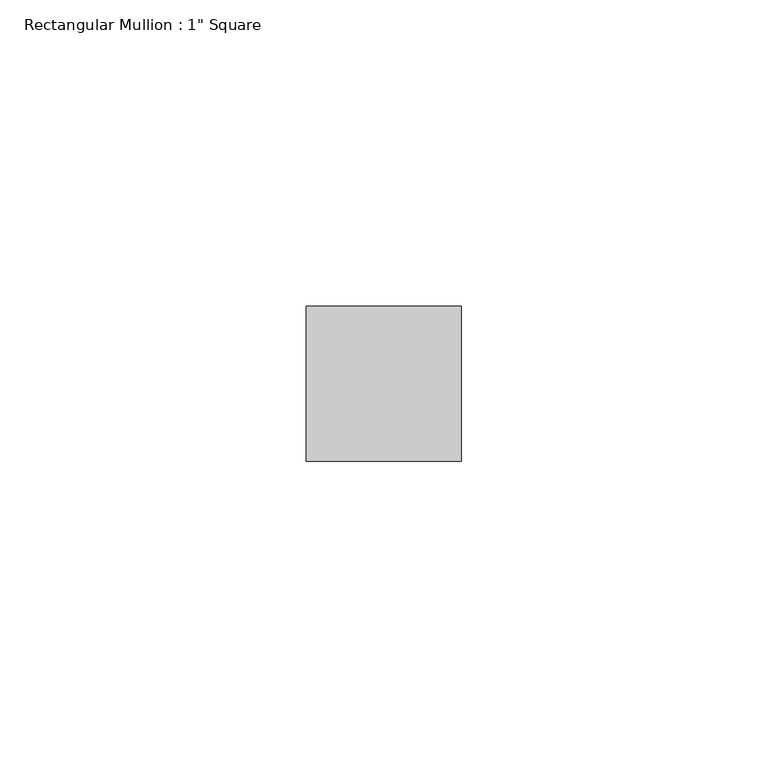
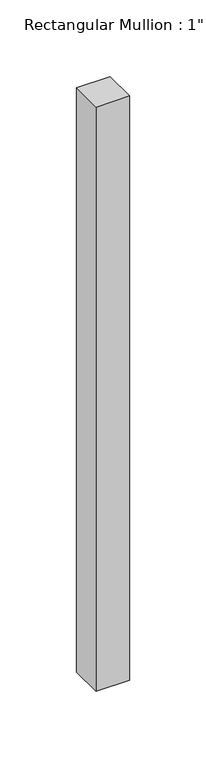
"""IFC4 building model written with IfcOpenShell, lengths in millimetres: member geometry."""

import ifcopenshell
import ifcopenshell.guid

model = None  # the IFC model being written
_history = None  # IfcOwnerHistory: only IFC2X3 demands one
_inside = {}  # id of a spatial element -> (the spatial element, [elements in it])
_under = {}  # id of a project, library or spatial element -> (it, [spatial elements below it])
_declared = {}  # id of a project -> (the project, [libraries it declares])
_typed = {}  # id of a type object -> (the type object, [elements of that type])
_made_of = {}  # id of a material, layer set ... -> (it, [elements and type objects made of it])


def new_model(schema):
    """Start an empty IFC model of exactly this schema.

    Asked for "IFC4X3", IfcOpenShell would pick the latest addendum, in which some entities
    have other attributes; the version numbers below select the first issue.
    IFC2X3 requires an IfcOwnerHistory on every rooted entity: one is made here for all.
    """
    global model, _history
    if schema == "IFC4X3":
        model = ifcopenshell.file(schema_version=(4, 3, 0, 0))
    else:
        model = ifcopenshell.file(schema=schema)
    _inside.clear()
    _under.clear()
    _declared.clear()
    _typed.clear()
    _made_of.clear()
    _history = None
    if model.schema == "IFC2X3":
        org = make("IfcOrganization", Name="unknown")
        user = make(
            "IfcPersonAndOrganization",
            ThePerson=make("IfcPerson", FamilyName="unknown"),
            TheOrganization=org,
        )
        app = make(
            "IfcApplication",
            ApplicationDeveloper=org,
            Version="unknown",
            ApplicationFullName="unknown",
            ApplicationIdentifier="unknown",
        )
        _history = make(
            "IfcOwnerHistory",
            OwningUser=user,
            OwningApplication=app,
            ChangeAction="ADDED",
            CreationDate=0,
        )
    return model


def make(cls, **values):
    """One entity of the class cls with the attributes given. An attribute that is None is left unset."""
    return model.create_entity(
        cls, **{name: value for name, value in values.items() if value is not None}
    )


def rooted(cls, **values):
    """An entity with a GlobalId (a new one), such as an element, a storey or a relation."""
    return make(cls, GlobalId=ifcopenshell.guid.new(), OwnerHistory=_history, **values)


def si_unit(unit_type, name, prefix=None):
    """IfcSIUnit, for example si_unit("LENGTHUNIT", "METRE", prefix="MILLI")."""
    return make("IfcSIUnit", UnitType=unit_type, Prefix=prefix, Name=name)


def assignment(units):
    """IfcUnitAssignment: the units of a project."""
    return None if units is None else make("IfcUnitAssignment", Units=units)


def point(xyz):
    """IfcCartesianPoint."""
    return None if xyz is None else make("IfcCartesianPoint", Coordinates=xyz)


def direction(xyz):
    """IfcDirection."""
    return None if xyz is None else make("IfcDirection", DirectionRatios=xyz)


def frame(location, z_axis=None, x_axis=None):
    """IfcAxis2Placement3D, a coordinate frame: its origin and axes. An axis left out is left unset."""
    return make(
        "IfcAxis2Placement3D",
        Location=point(location),
        Axis=direction(z_axis),
        RefDirection=direction(x_axis),
    )


def origin():
    """The frame at (0, 0, 0) with its axes left unset."""
    return frame((0.0, 0.0, 0.0))


def place(relative_to, where):
    """IfcLocalPlacement: puts the frame where relative to a parent placement (None: the world)."""
    return make(
        "IfcLocalPlacement", PlacementRelTo=relative_to, RelativePlacement=where
    )


def context(
    kind, dimensions, precision=None, world=None, true_north=None, identifier=None
):
    """IfcGeometricRepresentationContext, for example the 3D "Model" context."""
    return make(
        "IfcGeometricRepresentationContext",
        ContextIdentifier=identifier,
        ContextType=kind,
        CoordinateSpaceDimension=dimensions,
        Precision=precision,
        WorldCoordinateSystem=world,
        TrueNorth=true_north,
    )


def project(units=None, contexts=None):
    """IfcProject with its units and contexts."""
    return rooted(
        "IfcProject",
        Name="project",
        RepresentationContexts=contexts,
        UnitsInContext=assignment(units),
    )


def spatial(cls, under=None, at=None, **own):
    """A site, building, storey or space (cls), placed at a placement, below another one or the project."""
    s = rooted(cls, ObjectPlacement=at, **own)
    if under is not None:
        _under.setdefault(under.id(), (under, []))[1].append(s)
    return s


def polyline(points):
    """IfcPolyline through the points."""
    return make("IfcPolyline", Points=[point(p) for p in points])


def outline(outer, holes=None, kind="AREA"):
    """IfcArbitraryClosedProfileDef: a profile drawn as a closed curve; with holes, ...WithVoids."""
    if holes is None:
        return make("IfcArbitraryClosedProfileDef", ProfileType=kind, OuterCurve=outer)
    return make(
        "IfcArbitraryProfileDefWithVoids",
        ProfileType=kind,
        OuterCurve=outer,
        InnerCurves=holes,
    )


def extrude(swept, where, along, depth):
    """IfcExtrudedAreaSolid: the profile swept, set in the frame where, extruded along a direction by depth."""
    return make(
        "IfcExtrudedAreaSolid",
        SweptArea=swept,
        Position=where,
        ExtrudedDirection=direction(along),
        Depth=depth,
    )


def shape(context_of_items, identifier, shape_type, items):
    """IfcShapeRepresentation: the items that make up one representation, for example the "Body"."""
    return make(
        "IfcShapeRepresentation",
        ContextOfItems=context_of_items,
        RepresentationIdentifier=identifier,
        RepresentationType=shape_type,
        Items=items,
    )


def source(mapping_origin, context_of_items, identifier, shape_type, items):
    """IfcRepresentationMap: a shape defined once, which mapped items show again and again."""
    return make(
        "IfcRepresentationMap",
        MappingOrigin=mapping_origin,
        MappedRepresentation=shape(context_of_items, identifier, shape_type, items),
    )


def transform(
    local_origin,
    x_axis=None,
    y_axis=None,
    z_axis=None,
    scale=None,
    scale2=None,
    scale3=None,
    uniform=True,
):
    """IfcCartesianTransformationOperator3D, or its non-uniform kind. x_axis, y_axis, z_axis: its Axis1, 2, 3."""
    if uniform:
        return make(
            "IfcCartesianTransformationOperator3D",
            Axis1=direction(x_axis),
            Axis2=direction(y_axis),
            LocalOrigin=point(local_origin),
            Scale=scale,
            Axis3=direction(z_axis),
        )
    return make(
        "IfcCartesianTransformationOperator3DnonUniform",
        Axis1=direction(x_axis),
        Axis2=direction(y_axis),
        LocalOrigin=point(local_origin),
        Scale=scale,
        Axis3=direction(z_axis),
        Scale2=scale2,
        Scale3=scale3,
    )


def mapped(mapping_source, mapping_target):
    """IfcMappedItem: shows the shape of a source again, moved by a transform."""
    return make(
        "IfcMappedItem", MappingSource=mapping_source, MappingTarget=mapping_target
    )


def made_of(thing, what):
    """Note that an element or type object is made of a material, layer set ...; save() writes the relation."""
    if what is not None:
        _made_of.setdefault(what.id(), (what, []))[1].append(thing)
    return thing


def element(
    cls,
    number,
    at=None,
    inside=None,
    cuts=None,
    type_object=None,
    material=None,
    context=None,
    identifier="Body",
    shape_type=None,
    held_by="IfcProductDefinitionShape",
    body=None,
    shapes=None,
    **own,
):
    """One element of the class cls, such as IfcWall. Its Tag is "e" and its number.

    at: its placement. inside: the storey or other place that contains it. cuts: it is an
    opening in that element (IfcRelVoidsElement). A single representation is given by context,
    identifier, shape_type and body (its items); several are given by shapes. held_by: the class
    of the entity that holds the representations. save() writes the other relations.
    """
    e = rooted(cls, Tag="e%d" % number, ObjectPlacement=at, **own)
    if body is not None:
        shapes = [shape(context, identifier, shape_type, body)]
    if shapes is not None:
        e.Representation = make(held_by, Representations=shapes)
    if inside is not None:
        _inside.setdefault(inside.id(), (inside, []))[1].append(e)
    if cuts is not None:
        rooted(
            "IfcRelVoidsElement", RelatingBuildingElement=cuts, RelatedOpeningElement=e
        )
    if type_object is not None:
        _typed.setdefault(type_object.id(), (type_object, []))[1].append(e)
    return made_of(e, material)


def aggregate(whole, parts):
    """IfcRelAggregates: a whole, such as a stair, and the parts it consists of."""
    return rooted("IfcRelAggregates", RelatingObject=whole, RelatedObjects=parts)


def save(model, path):
    """Write the relations noted so far, then the file.

    IfcRelAggregates (storeys below a building ...), IfcRelContainedInSpatialStructure (elements
    in a storey), IfcRelDefinesByType, IfcRelAssociatesMaterial and IfcRelDeclares: one each for
    every whole, place, type object, material and project.
    """
    for whole, parts in _under.values():
        aggregate(whole, parts)
    for where, things in _inside.values():
        rooted(
            "IfcRelContainedInSpatialStructure",
            RelatedElements=things,
            RelatingStructure=where,
        )
    for kind, things in _typed.values():
        rooted("IfcRelDefinesByType", RelatedObjects=things, RelatingType=kind)
    for what, things in _made_of.values():
        rooted("IfcRelAssociatesMaterial", RelatedObjects=things, RelatingMaterial=what)
    for by, libraries in _declared.values():
        rooted("IfcRelDeclares", RelatingContext=by, RelatedDefinitions=libraries)
    model.write(path)


def member_b04beb07(model_context):
    return source(origin(), model_context, "Body", "SweptSolid", [
        extrude(outline(polyline([(12.7, 12.7), (12.7, -12.7), (-12.7, -12.7), (-12.7, 12.7), (12.7, 12.7)])), frame((0.0, 0.0, -465.2486749), z_axis=(0.0, 0.0, 1.0), x_axis=(1.0, 0.0, 0.0)), (0.0, 0.0, 1.0), 465.2486749),
    ])


if __name__ == "__main__":
    model = new_model("IFC4")
    model_context = context("Model", 3, world=origin())
    ifc_project = project(units=[si_unit("LENGTHUNIT", "METRE", prefix="MILLI")], contexts=[model_context])
    site = spatial("IfcSite", under=ifc_project)
    building = spatial("IfcBuilding", under=site)
    placement = place(None, origin())
    member_shape = member_b04beb07(model_context)
    element("IfcMember", 1, ObjectType="Rectangular Mullion : 1\" Square", at=placement, inside=building, context=model_context, shape_type="MappedRepresentation", body=[
        mapped(member_shape, transform((0.0, 0.0, 0.0), x_axis=(1.0, 0.0, 0.0), y_axis=(0.0, 1.0, 0.0), z_axis=(0.0, 0.0, 1.0))),
    ])
    save(model, "model.ifc")
